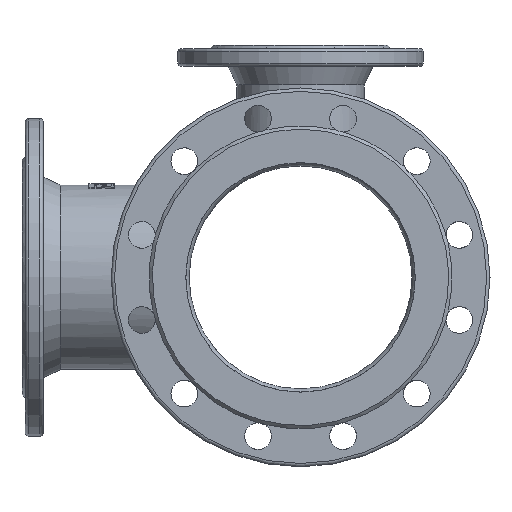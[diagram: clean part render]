
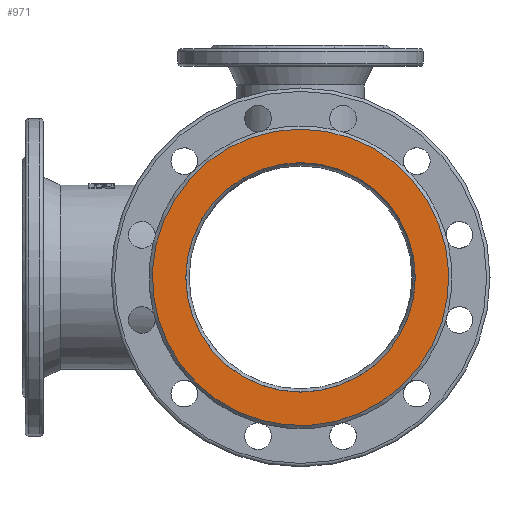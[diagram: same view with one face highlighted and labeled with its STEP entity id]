
A CAD part, left-side view. The second image highlights one B-rep face of the part: STEP entity #971.
In plain terms, the highlighted planar face has unit normal (-1, 0, 0).
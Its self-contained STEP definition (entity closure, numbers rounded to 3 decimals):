
#137 = ORIENTED_EDGE ( 'NONE', *, *, #4272, .T. ) ;
#186 = ORIENTED_EDGE ( 'NONE', *, *, #4338, .T. ) ;
#618 = CIRCLE ( 'NONE', #2442, 103. ) ;
#674 = CIRCLE ( 'NONE', #2483, 133. ) ;
#754 = VERTEX_POINT ( 'NONE', #6961 ) ;
#764 = VERTEX_POINT ( 'NONE', #6971 ) ;
#971 = ADVANCED_FACE ( 'NONE', ( #6140, #6153 ), #2288, .F. ) ;
#1152 = AXIS2_PLACEMENT_3D ( 'NONE', #2286, #2290, #2291 ) ;
#2286 = CARTESIAN_POINT ( 'NONE',  ( -260., 100., 0. ) ) ;
#2288 = PLANE ( 'NONE',  #1152 ) ;
#2290 = DIRECTION ( 'NONE',  ( 1., 0., 0. ) ) ;
#2291 = DIRECTION ( 'NONE',  ( 0., 0., -1. ) ) ;
#2442 = AXIS2_PLACEMENT_3D ( 'NONE', #6641, #6642, #6643 ) ;
#2483 = AXIS2_PLACEMENT_3D ( 'NONE', #6876, #6877, #6878 ) ;
#4272 = EDGE_CURVE ( 'NONE', #754, #754, #618, .T. ) ;
#4338 = EDGE_CURVE ( 'NONE', #764, #764, #674, .T. ) ;
#6140 = FACE_BOUND ( 'NONE', #7632, .T. ) ;
#6153 = FACE_OUTER_BOUND ( 'NONE', #7686, .T. ) ;
#6641 = CARTESIAN_POINT ( 'NONE',  ( -260., 0., 0. ) ) ;
#6642 = DIRECTION ( 'NONE',  ( 1., 0., 0. ) ) ;
#6643 = DIRECTION ( 'NONE',  ( 0., 0., -1. ) ) ;
#6876 = CARTESIAN_POINT ( 'NONE',  ( -260., 0., 0. ) ) ;
#6877 = DIRECTION ( 'NONE',  ( -1., 0., 0. ) ) ;
#6878 = DIRECTION ( 'NONE',  ( 0., 0., 1. ) ) ;
#6961 = CARTESIAN_POINT ( 'NONE',  ( -260., 0., -103. ) ) ;
#6971 = CARTESIAN_POINT ( 'NONE',  ( -260., 0., 133. ) ) ;
#7632 = EDGE_LOOP ( 'NONE', ( #137 ) ) ;
#7686 = EDGE_LOOP ( 'NONE', ( #186 ) ) ;
